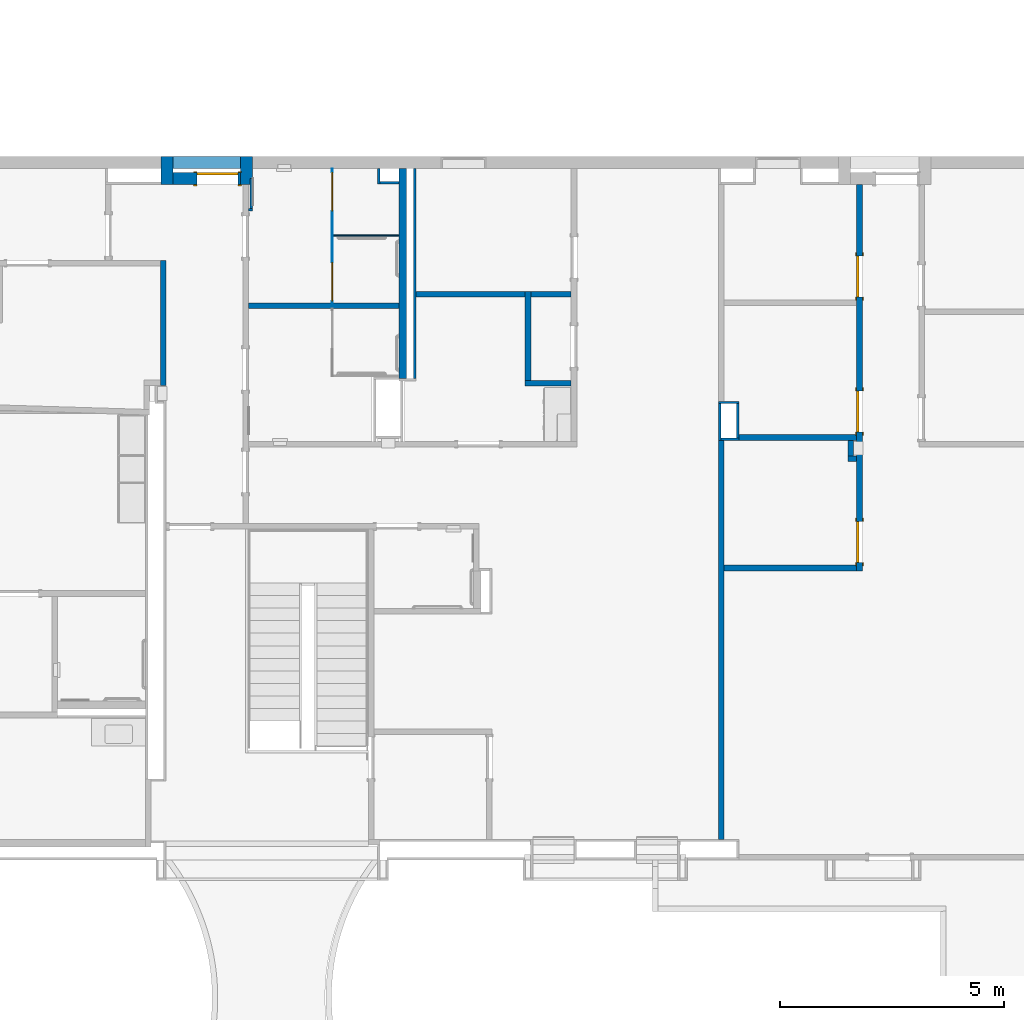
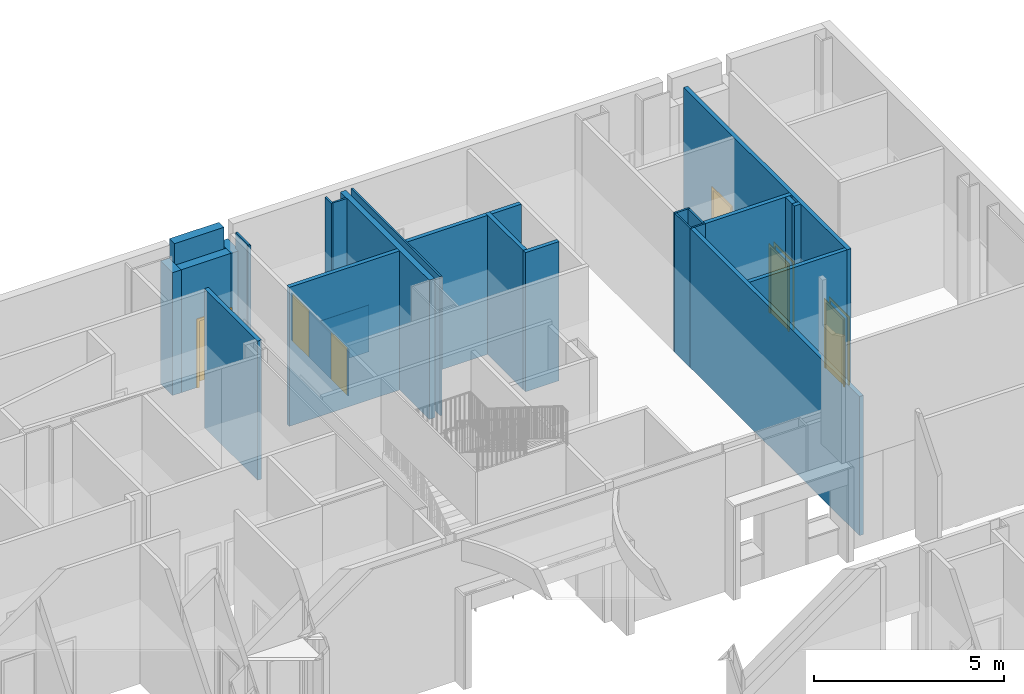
# One storey, part 40 of 87: 28 walls, 6 doors, 6 openings.
"""IFC2X3 building model written with IfcOpenShell, lengths in metres."""

from ifc_helpers import new_model, entity, si_unit, converted_unit, frame, frame_2d, origin, origin_2d_with_axis, place, context, project, spatial, polyline, rectangle, outline, extrude, source, transform, mapped, material, layer, layer_set, layer_usage, type_object, type_shapes, element, fill, save


model = new_model("IFC2X3")

# Units and contexts
model_context = context("Model", 3, precision=1e-09, world=origin())
plan_context = context("Plan", 3, precision=1e-09, world=origin())
ifc_project = project(units=[si_unit("LENGTHUNIT", "METRE"), si_unit("AREAUNIT", "SQUARE_METRE"), si_unit("VOLUMEUNIT", "CUBIC_METRE"), converted_unit("PLANEANGLEUNIT", "DEGREE", entity("IfcRatioMeasure", 0.01745329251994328), si_unit("PLANEANGLEUNIT", "RADIAN"), dimensions=[0, 0, 0, 0, 0, 0, 0]), si_unit("TIMEUNIT", "SECOND")], contexts=[model_context, plan_context])

# Site, building, storey
site_placement = place(None, origin())
site = spatial("IfcSite", under=ifc_project, at=site_placement, Name="Default", CompositionType="ELEMENT")
building_placement = place(site_placement, origin())
building = spatial("IfcBuilding", under=site, at=building_placement, CompositionType="ELEMENT")
storey_placement = place(building_placement, origin())
storey = spatial("IfcBuildingStorey", under=building, at=storey_placement, Name="First Floor", CompositionType="ELEMENT", Elevation=-3.531500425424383e-13)

# Wall
ifc_material_1 = material(Name="Insulation - Insulated Panel")
ifc_layer_1 = layer(ifc_material_1, 0.042)
ifc_material_2 = material(Name="Metal - Firring")
ifc_layer_2 = layer(ifc_material_2, 0.038)
ifc_material_3 = material(Name="Wood - Sheathing - plywood")
ifc_layer_3 = layer(ifc_material_3, 0.019)
ifc_material_4 = material(Name="Metal - Stud Layer")
ifc_layer_4 = layer(ifc_material_4, 0.152)
ifc_material_5 = material(Name="Plasterboard")
ifc_layer_5 = layer(ifc_material_5, 0.016)
ifc_layer_set_1 = layer_set([ifc_layer_1, ifc_layer_2, ifc_layer_3, ifc_layer_4, ifc_layer_5], Name="Basic Wall:Exterior - Insul Panel on Mtl. Stud")
ifc_layer_usage_1 = layer_usage(ifc_layer_set_1, "AXIS2", "NEGATIVE", 0.1335)
wall_1_placement = place(storey_placement, frame((-19.81550000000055, 50.46999999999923, 0.0), z_axis=(0.0, 0.0, 1.0), x_axis=(0.0, -1.0, 0.0)))
element("IfcWallStandardCase", 1, at=wall_1_placement, inside=storey, material=ifc_layer_usage_1, Name="Basic Wall:Exterior - Insul Panel on Mtl. Stud", ObjectType="Basic Wall:Exterior - Insul Panel on Mtl. Stud", context=model_context, shape_type="SweptSolid", body=[
    extrude(rectangle(XDim=0.6269999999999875, YDim=0.267, at=frame_2d((0.3134999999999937, 0.0), x_axis=(-1.0, 0.0))), origin(), (0.0, 0.0, 1.0), 3.949500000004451),
])

# Wall, opening, door
ifc_layer_usage_2 = layer_usage(ifc_layer_set_1, "AXIS2", "NEGATIVE", 0.1335)
wall_2_placement = place(storey_placement, frame((-19.68200000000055, 49.97649999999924, 0.0)))
wall_2 = element("IfcWallStandardCase", 2, at=wall_2_placement, inside=storey, material=ifc_layer_usage_2, Name="Basic Wall:Exterior - Insul Panel on Mtl. Stud", ObjectType="Basic Wall:Exterior - Insul Panel on Mtl. Stud", context=model_context, shape_type="SweptSolid", body=[
    extrude(rectangle(XDim=1.511999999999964, YDim=0.2670000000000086, at=frame_2d((0.7559999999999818, 0.0), x_axis=(-1.0, 0.0))), origin(), (0.0, 0.0, 1.0), 3.949500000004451),
])
opening_1_placement = place(wall_2_placement, frame((0.5369999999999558, -0.133500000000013, 0.0)))
opening_1 = element("IfcOpeningElement", 3, at=opening_1_placement, cuts=wall_2, Name="M_Single-Flush:0915 x 2134mm Exterior:0915 x 2134mm Exterior:1", ObjectType="Opening", context=model_context, shape_type="SweptSolid", body=[
    extrude(rectangle(XDim=0.9149999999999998, YDim=2.134, at=frame_2d((1.067, 0.4575), x_axis=(0.0, 1.0))), frame((0.0, 0.0, 0.0), z_axis=(0.0, 1.0, 0.0), x_axis=(0.0, 0.0, 1.0)), (0.0, 0.0, 1.0), 0.267),
])
door_style_1 = type_object("IfcDoorStyle", Name="0915 x 2134mm Exterior", ConstructionType="NOTDEFINED", OperationType="SINGLE_SWING_RIGHT", ParameterTakesPrecedence=False, Sizeable=False)
shared_shape_1 = source(origin(), model_context, "Body", "SweptSolid", [
    extrude(outline(polyline([(-0.5335, -1.123999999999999), (0.5334999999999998, -1.123999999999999), (0.5334999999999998, 1.086), (0.4574999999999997, 1.086), (0.4574999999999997, -1.048000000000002), (-0.4574999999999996, -1.048000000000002), (-0.4574999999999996, 1.086), (-0.5335, 1.086), (-0.5335, -1.123999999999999)])), frame((0.4575000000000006, 0.2669999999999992, 1.086), z_axis=(0.0, 1.0, 0.0), x_axis=(1.0, 0.0, 0.0)), (0.0, 0.0, 1.0), 0.02499999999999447),
    extrude(outline(polyline([(-1.123999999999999, -0.5334999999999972), (1.085999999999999, -0.5334999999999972), (1.085999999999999, -0.4575000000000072), (-1.048, -0.4575000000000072), (-1.048, 0.4575000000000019), (1.085999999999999, 0.4575000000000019), (1.085999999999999, 0.5335000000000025), (-1.123999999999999, 0.5335000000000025), (-1.123999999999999, -0.5334999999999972)])), frame((0.4575000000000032, -0.02500000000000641, 1.085999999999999), z_axis=(0.0, 1.0, 0.0), x_axis=(0.0, 0.0, -1.0)), (0.0, 0.0, 1.0), 0.0250000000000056),
    extrude(rectangle(XDim=0.051, YDim=0.9149999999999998, at=origin_2d_with_axis()), frame((0.4575000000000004, 0.2414999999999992, 0.0), z_axis=(0.0, 0.0, 1.0), x_axis=(0.0, 1.0, 0.0)), (0.0, 0.0, 1.0), 2.133999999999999),
])
type_shapes(door_style_1, [shared_shape_1])
door_1_placement = place(opening_1_placement, origin())
door_1 = element("IfcDoor", 4, at=door_1_placement, inside=storey, type_object=door_style_1, Name="M_Single-Flush:0915 x 2134mm Exterior:0915 x 2134mm Exterior", ObjectType="0915 x 2134mm Exterior", OverallHeight=2.134, OverallWidth=0.9149999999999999, context=model_context, shape_type="MappedRepresentation", body=[
    mapped(shared_shape_1, transform((0.0, 0.0, 0.0), scale=1.0)),
])
fill(opening_1, door_1)

# Walls
ifc_layer_usage_3 = layer_usage(ifc_layer_set_1, "AXIS2", "NEGATIVE", 0.1335)
wall_3_placement = place(storey_placement, frame((-18.03650000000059, 49.84299999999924, 0.0), z_axis=(0.0, 0.0, 1.0), x_axis=(0.0, 1.0, 0.0)))
element("IfcWallStandardCase", 5, at=wall_3_placement, inside=storey, material=ifc_layer_usage_3, Name="Basic Wall:Exterior - Insul Panel on Mtl. Stud", ObjectType="Basic Wall:Exterior - Insul Panel on Mtl. Stud", context=model_context, shape_type="SweptSolid", body=[
    extrude(rectangle(XDim=0.6270000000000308, YDim=0.267, at=frame_2d((0.3135000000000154, 0.0), x_axis=(-1.0, 0.0))), origin(), (0.0, 0.0, 1.0), 3.949500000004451),
])
ifc_layer_6 = layer(ifc_material_5, 0.016)
ifc_layer_7 = layer(ifc_material_4, 0.092)
ifc_layer_8 = layer(ifc_material_5, 0.016)
ifc_layer_set_2 = layer_set([ifc_layer_6, ifc_layer_7, ifc_layer_8], Name="Basic Wall:Interior - Partition (92mm Stud)")
ifc_layer_usage_4 = layer_usage(ifc_layer_set_2, "AXIS2", "NEGATIVE", 0.062)
wall_4_placement = place(storey_placement, frame((-19.8920000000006, 48.14999999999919, 0.0), z_axis=(0.0, 0.0, 1.0), x_axis=(0.0, -1.0, 0.0)))
element("IfcWallStandardCase", 6, at=wall_4_placement, inside=storey, material=ifc_layer_usage_4, Name="Basic Wall:Interior - Partition (92mm Stud)", ObjectType="Basic Wall:Interior - Partition (92mm Stud)", context=model_context, shape_type="SweptSolid", body=[
    extrude(rectangle(XDim=2.78999999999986, YDim=0.1239999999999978, at=frame_2d((1.39499999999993, 0.0), x_axis=(-1.0, 0.0))), origin(), (0.0, 0.0, 1.0), 4.46800000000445),
])
ifc_layer_9 = layer(ifc_material_4, 0.038)
ifc_layer_10 = layer(ifc_material_5, 0.016)
ifc_layer_set_3 = layer_set([ifc_layer_9, ifc_layer_10], Name="Basic Wall:Interior - Furring (38 mm Stud)")
ifc_layer_usage_5 = layer_usage(ifc_layer_set_3, "AXIS2", "POSITIVE", -0.027)
wall_5_placement = place(storey_placement, frame((-14.28700000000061, 50.20299999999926, 0.0), z_axis=(0.0, 0.0, 1.0), x_axis=(0.0, -1.0, 0.0)))
element("IfcWallStandardCase", 7, at=wall_5_placement, inside=storey, material=ifc_layer_usage_5, Name="Basic Wall:Interior - Furring (38 mm Stud)", ObjectType="Basic Wall:Interior - Furring (38 mm Stud)", context=model_context, shape_type="SweptSolid", body=[
    extrude(rectangle(XDim=4.683999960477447, YDim=0.05400000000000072, at=frame_2d((2.341999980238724, 0.0), x_axis=(-1.0, 0.0))), origin(), (0.0, 0.0, 1.0), 4.468000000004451),
])
ifc_layer_11 = layer(ifc_material_4, 0.152)
ifc_layer_12 = layer(ifc_material_5, 0.016)
ifc_layer_set_4 = layer_set([ifc_layer_11, ifc_layer_12], Name="Basic Wall:Interior - Furring (152 mm Stud)")
ifc_layer_usage_6 = layer_usage(ifc_layer_set_4, "AXIS2", "POSITIVE", -0.08399999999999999)
wall_6_placement = place(storey_placement, frame((-14.55600000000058, 45.51900003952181, 0.0), z_axis=(0.0, 0.0, 1.0), x_axis=(0.0, 1.0, 0.0)))
element("IfcWallStandardCase", 8, at=wall_6_placement, inside=storey, material=ifc_layer_usage_6, Name="Basic Wall:Interior - Furring (152 mm Stud)", ObjectType="Basic Wall:Interior - Furring (152 mm Stud)", context=model_context, shape_type="SweptSolid", body=[
    extrude(rectangle(XDim=4.683999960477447, YDim=0.1680000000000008, at=frame_2d((2.341999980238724, 0.0), x_axis=(-1.0, 0.0))), origin(), (0.0, 0.0, 1.0), 4.468000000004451),
])
ifc_layer_usage_7 = layer_usage(ifc_layer_set_2, "AXIS2", "NEGATIVE", 0.062)
wall_7_placement = place(storey_placement, frame((-14.64000000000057, 47.14199999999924, 0.0), z_axis=(0.0, 0.0, 1.0), x_axis=(-1.0, 0.0, 0.0)))
element("IfcWallStandardCase", 9, at=wall_7_placement, inside=storey, material=ifc_layer_usage_7, Name="Basic Wall:Interior - Partition (92mm Stud)", ObjectType="Basic Wall:Interior - Partition (92mm Stud)", context=model_context, shape_type="SweptSolid", body=[
    extrude(rectangle(XDim=3.356000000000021, YDim=0.1240000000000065, at=frame_2d((1.678000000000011, 0.0), x_axis=(-1.0, 0.0))), origin(), (0.0, 0.0, 1.0), 4.46800000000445),
])
ifc_layer_usage_8 = layer_usage(ifc_layer_set_2, "AXIS2", "NEGATIVE", 0.062)
wall_8_placement = place(storey_placement, frame((-10.79400000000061, 45.41199999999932, 0.0), z_axis=(0.0, 0.0, 1.0), x_axis=(-1.0, 0.0, 0.0)))
element("IfcWallStandardCase", 10, at=wall_8_placement, inside=storey, material=ifc_layer_usage_8, Name="Basic Wall:Interior - Partition (92mm Stud)", ObjectType="Basic Wall:Interior - Partition (92mm Stud)", context=model_context, shape_type="SweptSolid", body=[
    extrude(rectangle(XDim=1.025999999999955, YDim=0.1240000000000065, at=frame_2d((0.5129999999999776, 0.0), x_axis=(-1.0, 0.0))), origin(), (0.0, 0.0, 1.0), 4.468000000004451),
])
ifc_layer_usage_9 = layer_usage(ifc_layer_set_2, "AXIS2", "NEGATIVE", 0.062)
wall_9_placement = place(storey_placement, frame((-11.75800000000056, 45.47399999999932, 0.0), z_axis=(0.0, 0.0, 1.0), x_axis=(0.0, 1.0, 0.0)))
element("IfcWallStandardCase", 11, at=wall_9_placement, inside=storey, material=ifc_layer_usage_9, Name="Basic Wall:Interior - Partition (92mm Stud)", ObjectType="Basic Wall:Interior - Partition (92mm Stud)", context=model_context, shape_type="SweptSolid", body=[
    extrude(rectangle(XDim=1.984999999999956, YDim=0.1240000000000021, at=frame_2d((0.992499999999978, 0.0), x_axis=(-1.0, 0.0))), origin(), (0.0, 0.0, 1.0), 4.46800000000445),
])
ifc_layer_usage_10 = layer_usage(ifc_layer_set_2, "AXIS2", "NEGATIVE", 0.062)
wall_10_placement = place(storey_placement, frame((-11.82000000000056, 47.39699999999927, 0.0), z_axis=(0.0, 0.0, 1.0), x_axis=(-1.0, 0.0, 0.0)))
element("IfcWallStandardCase", 12, at=wall_10_placement, inside=storey, material=ifc_layer_usage_10, Name="Basic Wall:Interior - Partition (92mm Stud)", ObjectType="Basic Wall:Interior - Partition (92mm Stud)", context=model_context, shape_type="SweptSolid", body=[
    extrude(rectangle(XDim=2.440000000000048, YDim=0.1240000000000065, at=frame_2d((1.220000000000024, 0.0), x_axis=(-1.0, 0.0))), origin(), (0.0, 0.0, 1.0), 4.46800000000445),
])
ifc_layer_usage_11 = layer_usage(ifc_layer_set_2, "AXIS2", "NEGATIVE", 0.062)
wall_11_placement = place(storey_placement, frame((-11.69600000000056, 47.39699999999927, 0.0)))
element("IfcWallStandardCase", 13, at=wall_11_placement, inside=storey, material=ifc_layer_usage_11, Name="Basic Wall:Interior - Partition (92mm Stud)", ObjectType="Basic Wall:Interior - Partition (92mm Stud)", context=model_context, shape_type="SweptSolid", body=[
    extrude(rectangle(XDim=0.9019999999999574, YDim=0.1240000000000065, at=frame_2d((0.4509999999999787, 0.0), x_axis=(-1.0, 0.0))), origin(), (0.0, 0.0, 1.0), 4.46800000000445),
])
ifc_layer_usage_12 = layer_usage(ifc_layer_set_2, "AXIS2", "NEGATIVE", 0.062)
wall_12_placement = place(storey_placement, frame((-7.448000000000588, 35.23999999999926, 0.0), z_axis=(0.0, 0.0, 1.0), x_axis=(0.0, 1.0, 0.0)))
element("IfcWallStandardCase", 14, at=wall_12_placement, inside=storey, material=ifc_layer_usage_12, Name="Basic Wall:Interior - Partition (92mm Stud)", ObjectType="Basic Wall:Interior - Partition (92mm Stud)", context=model_context, shape_type="SweptSolid", body=[
    extrude(rectangle(XDim=8.900000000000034, YDim=0.124, at=frame_2d((4.450000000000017, 0.0), x_axis=(-1.0, 0.0))), origin(), (0.0, 0.0, 1.0), 4.46800000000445),
])

# Wall, openings, doors
ifc_layer_usage_13 = layer_usage(ifc_layer_set_2, "AXIS2", "NEGATIVE", 0.062)
wall_13_placement = place(storey_placement, frame((-4.362000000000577, 49.84299999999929, 0.0), z_axis=(0.0, 0.0, 1.0), x_axis=(0.0, -1.0, 0.0)))
wall_13 = element("IfcWallStandardCase", 15, at=wall_13_placement, inside=storey, material=ifc_layer_usage_13, Name="Basic Wall:Interior - Partition (92mm Stud)", ObjectType="Basic Wall:Interior - Partition (92mm Stud)", context=model_context, shape_type="SweptSolid", body=[
    extrude(rectangle(XDim=8.613000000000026, YDim=0.124, at=frame_2d((4.306500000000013, 0.0), x_axis=(-1.0, 0.0))), origin(), (0.0, 0.0, 1.0), 4.46800000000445),
])
opening_2_placement = place(wall_13_placement, frame((2.50900000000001, 0.06199999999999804, 0.0)))
opening_2 = element("IfcOpeningElement", 16, at=opening_2_placement, cuts=wall_13, Name="M_Single-Flush:0915 x 2134mm:0915 x 2134mm:1", ObjectType="Opening", context=model_context, shape_type="SweptSolid", body=[
    extrude(rectangle(XDim=0.9149999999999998, YDim=2.134, at=frame_2d((1.067, 0.4574999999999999), x_axis=(0.0, -1.0))), frame((0.0, 0.0, 0.0), z_axis=(0.0, -1.0, 0.0), x_axis=(0.0, 0.0, 1.0)), (0.0, 0.0, 1.0), 0.124),
])
opening_3_placement = place(wall_13_placement, frame((5.519000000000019, 0.06199999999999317, 0.0)))
opening_3 = element("IfcOpeningElement", 17, at=opening_3_placement, cuts=wall_13, Name="M_Single-Flush:0915 x 2134mm:0915 x 2134mm:1", ObjectType="Opening", context=model_context, shape_type="SweptSolid", body=[
    extrude(rectangle(XDim=0.9149999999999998, YDim=2.134, at=frame_2d((1.067, 0.4574999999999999), x_axis=(0.0, -1.0))), frame((0.0, 0.0, 0.0), z_axis=(0.0, -1.0, 0.0), x_axis=(0.0, 0.0, 1.0)), (0.0, 0.0, 1.0), 0.124),
])
opening_4_placement = place(wall_13_placement, frame((8.429000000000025, 0.06199999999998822, 0.0)))
opening_4 = element("IfcOpeningElement", 18, at=opening_4_placement, cuts=wall_13, Name="M_Single-Flush:0915 x 2134mm:0915 x 2134mm:1", ObjectType="Opening", context=model_context, shape_type="SweptSolid", body=[
    extrude(rectangle(XDim=0.9149999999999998, YDim=2.134, at=frame_2d((1.067, 0.4574999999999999), x_axis=(0.0, -1.0))), frame((0.0, 0.0, 0.0), z_axis=(0.0, -1.0, 0.0), x_axis=(0.0, 0.0, 1.0)), (0.0, 0.0, 1.0), 0.124),
])
door_style_2 = type_object("IfcDoorStyle", Name="0915 x 2134mm", ConstructionType="NOTDEFINED", OperationType="SINGLE_SWING_LEFT", ParameterTakesPrecedence=False, Sizeable=False)
shared_shape_2 = source(origin(), model_context, "Body", "SweptSolid", [
    extrude(outline(polyline([(-0.5335, -1.123999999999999), (0.5334999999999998, -1.123999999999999), (0.5334999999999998, 1.086), (0.4574999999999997, 1.086), (0.4574999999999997, -1.048000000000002), (-0.4574999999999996, -1.048000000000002), (-0.4574999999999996, 1.086), (-0.5335, 1.086), (-0.5335, -1.123999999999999)])), frame((0.4575000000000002, 0.1489999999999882, 1.086), z_axis=(0.0, -1.0, 0.0), x_axis=(-1.0, 0.0, 0.0)), (0.0, 0.0, 1.0), 0.02499999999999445),
    extrude(outline(polyline([(-1.123999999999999, -0.5334999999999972), (1.085999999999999, -0.5334999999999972), (1.085999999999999, -0.4575000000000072), (-1.048, -0.4575000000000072), (-1.048, 0.4575000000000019), (1.085999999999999, 0.4575000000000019), (1.085999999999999, 0.5335000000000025), (-1.123999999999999, 0.5335000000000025), (-1.123999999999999, -0.5334999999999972)])), frame((0.4574999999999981, 0.0, 1.085999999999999), z_axis=(0.0, -1.0, 0.0), x_axis=(0.0, 0.0, -1.0)), (0.0, 0.0, 1.0), 0.02500000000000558),
    extrude(rectangle(XDim=0.9149999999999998, YDim=0.051, at=origin_2d_with_axis()), frame((0.4575000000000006, 0.09849999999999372, 0.0)), (0.0, 0.0, 1.0), 2.133999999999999),
])
type_shapes(door_style_2, [shared_shape_2])
door_2_placement = place(opening_2_placement, frame((0.0, 0.0, 0.0), z_axis=(0.0, 0.0, 1.0), x_axis=(-1.0, 0.0, 0.0)))
door_2 = element("IfcDoor", 19, at=door_2_placement, inside=storey, type_object=door_style_2, Name="M_Single-Flush:0915 x 2134mm:0915 x 2134mm", ObjectType="0915 x 2134mm", OverallHeight=2.134, OverallWidth=0.9149999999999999, context=model_context, shape_type="MappedRepresentation", body=[
    mapped(shared_shape_2, transform((0.0, 0.0, 0.0), scale=1.0)),
])
fill(opening_2, door_2)
door_3_placement = place(opening_3_placement, frame((0.0, 0.0, 0.0), z_axis=(0.0, 0.0, 1.0), x_axis=(-1.0, 0.0, 0.0)))
door_3 = element("IfcDoor", 20, at=door_3_placement, inside=storey, type_object=door_style_2, Name="M_Single-Flush:0915 x 2134mm:0915 x 2134mm", ObjectType="0915 x 2134mm", OverallHeight=2.134, OverallWidth=0.9149999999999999, context=model_context, shape_type="MappedRepresentation", body=[
    mapped(shared_shape_2, transform((0.0, 0.0, 0.0), scale=1.0)),
])
fill(opening_3, door_3)
door_4_placement = place(opening_4_placement, frame((0.0, 0.0, 0.0), z_axis=(0.0, 0.0, 1.0), x_axis=(-1.0, 0.0, 0.0)))
door_4 = element("IfcDoor", 21, at=door_4_placement, inside=storey, type_object=door_style_2, Name="M_Single-Flush:0915 x 2134mm:0915 x 2134mm", ObjectType="0915 x 2134mm", OverallHeight=2.134, OverallWidth=0.9149999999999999, context=model_context, shape_type="MappedRepresentation", body=[
    mapped(shared_shape_2, transform((0.0, 0.0, 0.0), scale=1.0)),
])
fill(opening_4, door_4)

# Walls
ifc_layer_usage_14 = layer_usage(ifc_layer_set_2, "AXIS2", "NEGATIVE", 0.062)
wall_14_placement = place(storey_placement, frame((-4.424000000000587, 44.20199999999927, 0.0), z_axis=(0.0, 0.0, 1.0), x_axis=(-1.0, 0.0, 0.0)))
element("IfcWallStandardCase", 22, at=wall_14_placement, inside=storey, material=ifc_layer_usage_14, Name="Basic Wall:Interior - Partition (92mm Stud)", ObjectType="Basic Wall:Interior - Partition (92mm Stud)", context=model_context, shape_type="SweptSolid", body=[
    extrude(rectangle(XDim=2.626000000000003, YDim=0.1240000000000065, at=frame_2d((1.313000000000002, 0.0), x_axis=(-1.0, 0.0))), origin(), (0.0, 0.0, 1.0), 4.46800000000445),
])
ifc_layer_usage_15 = layer_usage(ifc_layer_set_2, "AXIS2", "NEGATIVE", 0.062)
wall_15_placement = place(storey_placement, frame((-4.559500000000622, 44.13999999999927, 0.0), z_axis=(0.0, 0.0, 1.0), x_axis=(0.0, -1.0, 0.0)))
element("IfcWallStandardCase", 23, at=wall_15_placement, inside=storey, material=ifc_layer_usage_15, Name="Basic Wall:Interior - Partition (92mm Stud)", ObjectType="Basic Wall:Interior - Partition (92mm Stud)", context=model_context, shape_type="SweptSolid", body=[
    extrude(rectangle(XDim=0.3500000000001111, YDim=0.124, at=frame_2d((0.1750000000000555, 0.0), x_axis=(-1.0, 0.0))), origin(), (0.0, 0.0, 1.0), 4.46800000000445),
])
ifc_layer_usage_16 = layer_usage(ifc_layer_set_2, "AXIS2", "NEGATIVE", 0.062)
wall_16_placement = place(storey_placement, frame((-4.621500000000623, 43.72799999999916, 0.0)))
element("IfcWallStandardCase", 24, at=wall_16_placement, inside=storey, material=ifc_layer_usage_16, Name="Basic Wall:Interior - Partition (92mm Stud)", ObjectType="Basic Wall:Interior - Partition (92mm Stud)", context=model_context, shape_type="SweptSolid", body=[
    extrude(rectangle(XDim=0.1975000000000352, YDim=0.1240000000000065, at=frame_2d((0.09875000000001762, 0.0), x_axis=(-1.0, 0.0))), origin(), (0.0, 0.0, 1.0), 4.46800000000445),
])
ifc_layer_usage_17 = layer_usage(ifc_layer_set_2, "AXIS2", "NEGATIVE", 0.062)
wall_17_placement = place(storey_placement, frame((-4.424000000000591, 41.29199999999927, 0.0), z_axis=(0.0, 0.0, 1.0), x_axis=(-1.0, 0.0, 0.0)))
element("IfcWallStandardCase", 25, at=wall_17_placement, inside=storey, material=ifc_layer_usage_17, Name="Basic Wall:Interior - Partition (92mm Stud)", ObjectType="Basic Wall:Interior - Partition (92mm Stud)", context=model_context, shape_type="SweptSolid", body=[
    extrude(rectangle(XDim=2.961999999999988, YDim=0.1240000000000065, at=frame_2d((1.480999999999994, 0.0), x_axis=(-1.0, 0.0))), origin(), (0.0, 0.0, 1.0), 4.46800000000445),
])
ifc_layer_usage_18 = layer_usage(ifc_layer_set_1, "AXIS2", "NEGATIVE", 0.1335)
wall_18_placement = place(storey_placement, frame((-19.81550000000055, 50.33649999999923, 3.0)))
element("IfcWallStandardCase", 26, at=wall_18_placement, inside=storey, material=ifc_layer_usage_18, Name="Basic Wall:Exterior - Insul Panel on Mtl. Stud", ObjectType="Basic Wall:Exterior - Insul Panel on Mtl. Stud", context=model_context, shape_type="SweptSolid", body=[
    extrude(rectangle(XDim=1.511999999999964, YDim=0.2669999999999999, at=frame_2d((0.889499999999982, 0.0), x_axis=(-1.0, 0.0))), origin(), (0.0, 0.0, 1.0), 1.570000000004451),
])
ifc_layer_usage_19 = layer_usage(ifc_layer_set_3, "AXIS2", "NEGATIVE", 0.027)
wall_19_placement = place(storey_placement, frame((-7.050000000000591, 44.98299999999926, 0.0), z_axis=(0.0, 0.0, 1.0), x_axis=(-1.0, 0.0, 0.0)))
element("IfcWallStandardCase", 27, at=wall_19_placement, inside=storey, material=ifc_layer_usage_19, Name="Basic Wall:Interior - Furring (38 mm Stud)", ObjectType="Basic Wall:Interior - Furring (38 mm Stud)", context=model_context, shape_type="SweptSolid", body=[
    extrude(rectangle(XDim=0.459999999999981, YDim=0.05400000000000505, at=frame_2d((0.2299999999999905, 0.0), x_axis=(-1.0, 0.0))), origin(), (0.0, 0.0, 1.0), 4.46800000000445),
])
ifc_layer_usage_20 = layer_usage(ifc_layer_set_3, "AXIS2", "NEGATIVE", 0.027)
wall_20_placement = place(storey_placement, frame((-7.483000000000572, 44.95599999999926, 0.0), z_axis=(0.0, 0.0, 1.0), x_axis=(0.0, -1.0, 0.0)))
element("IfcWallStandardCase", 28, at=wall_20_placement, inside=storey, material=ifc_layer_usage_20, Name="Basic Wall:Interior - Furring (38 mm Stud)", ObjectType="Basic Wall:Interior - Furring (38 mm Stud)", context=model_context, shape_type="SweptSolid", body=[
    extrude(rectangle(XDim=0.8159999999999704, YDim=0.05400000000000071, at=frame_2d((0.4079999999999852, 0.0), x_axis=(-1.0, 0.0))), origin(), (0.0, 0.0, 1.0), 4.46800000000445),
])
ifc_layer_usage_21 = layer_usage(ifc_layer_set_3, "AXIS2", "NEGATIVE", 0.027)
wall_21_placement = place(storey_placement, frame((-7.456000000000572, 44.16699999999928, 0.0)))
element("IfcWallStandardCase", 29, at=wall_21_placement, inside=storey, material=ifc_layer_usage_21, Name="Basic Wall:Interior - Furring (38 mm Stud)", ObjectType="Basic Wall:Interior - Furring (38 mm Stud)", context=model_context, shape_type="SweptSolid", body=[
    extrude(rectangle(XDim=0.4059999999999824, YDim=0.05400000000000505, at=frame_2d((0.2029999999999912, 0.0), x_axis=(-1.0, 0.0))), origin(), (0.0, 0.0, 1.0), 4.46800000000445),
])
ifc_layer_usage_22 = layer_usage(ifc_layer_set_3, "AXIS2", "NEGATIVE", 0.027)
wall_22_placement = place(storey_placement, frame((-7.07700000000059, 44.19399999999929, 0.0), z_axis=(0.0, 0.0, 1.0), x_axis=(0.0, 1.0, 0.0)))
element("IfcWallStandardCase", 30, at=wall_22_placement, inside=storey, material=ifc_layer_usage_22, Name="Basic Wall:Interior - Furring (38 mm Stud)", ObjectType="Basic Wall:Interior - Furring (38 mm Stud)", context=model_context, shape_type="SweptSolid", body=[
    extrude(rectangle(XDim=0.761999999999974, YDim=0.05400000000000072, at=frame_2d((0.380999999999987, 0.0), x_axis=(-1.0, 0.0))), origin(), (0.0, 0.0, 1.0), 4.468000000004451),
])
ifc_layer_usage_23 = layer_usage(ifc_layer_set_3, "AXIS2", "NEGATIVE", 0.027)
wall_23_placement = place(storey_placement, frame((-15.08297500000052, 50.20299999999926, 0.0), z_axis=(0.0, 0.0, 1.0), x_axis=(0.0, -1.0, 0.0)))
element("IfcWallStandardCase", 31, at=wall_23_placement, inside=storey, material=ifc_layer_usage_23, Name="Basic Wall:Interior - Furring (38 mm Stud)", ObjectType="Basic Wall:Interior - Furring (38 mm Stud)", context=model_context, shape_type="SweptSolid", body=[
    extrude(rectangle(XDim=0.3429999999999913, YDim=0.05400000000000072, at=frame_2d((0.1714999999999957, 0.0), x_axis=(-1.0, 0.0))), origin(), (0.0, 0.0, 1.0), 4.46800000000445),
])
ifc_layer_usage_24 = layer_usage(ifc_layer_set_3, "AXIS2", "NEGATIVE", 0.027)
wall_24_placement = place(storey_placement, frame((-15.05597500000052, 49.88699999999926, 0.0)))
element("IfcWallStandardCase", 32, at=wall_24_placement, inside=storey, material=ifc_layer_usage_24, Name="Basic Wall:Interior - Furring (38 mm Stud)", ObjectType="Basic Wall:Interior - Furring (38 mm Stud)", context=model_context, shape_type="SweptSolid", body=[
    extrude(rectangle(XDim=0.4159749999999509, YDim=0.05400000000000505, at=frame_2d((0.2079874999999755, 0.0), x_axis=(-1.0, 0.0))), origin(), (0.0, 0.0, 1.0), 4.46800000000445),
])
ifc_layer_usage_25 = layer_usage(ifc_layer_set_3, "AXIS2", "NEGATIVE", 0.027)
wall_25_placement = place(storey_placement, frame((-17.99600000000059, 49.28199999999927, 0.0)))
element("IfcWallStandardCase", 33, at=wall_25_placement, inside=storey, material=ifc_layer_usage_25, Name="Basic Wall:Interior - Furring (38 mm Stud)", ObjectType="Basic Wall:Interior - Furring (38 mm Stud)", context=model_context, shape_type="SweptSolid", body=[
    extrude(rectangle(XDim=0.09300000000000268, YDim=0.05400000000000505, at=frame_2d((0.04650000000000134, 0.0), x_axis=(-1.0, 0.0))), origin(), (0.0, 0.0, 1.0), 4.468000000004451),
])
ifc_layer_usage_26 = layer_usage(ifc_layer_set_3, "AXIS2", "NEGATIVE", 0.027)
wall_26_placement = place(storey_placement, frame((-17.93000000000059, 49.30899999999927, 0.0), z_axis=(0.0, 0.0, 1.0), x_axis=(0.0, 1.0, 0.0)))
element("IfcWallStandardCase", 34, at=wall_26_placement, inside=storey, material=ifc_layer_usage_26, Name="Basic Wall:Interior - Furring (38 mm Stud)", ObjectType="Basic Wall:Interior - Furring (38 mm Stud)", context=model_context, shape_type="SweptSolid", body=[
    extrude(rectangle(XDim=0.6674999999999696, YDim=0.05400000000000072, at=frame_2d((0.3337499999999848, 0.0), x_axis=(-1.0, 0.0))), origin(), (0.0, 0.0, 1.0), 4.46800000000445),
])

# Wall, openings, doors
ifc_material_6 = material(Name="Laminate - Ivory, Matte")
ifc_layer_13 = layer(ifc_material_6, 0.025)
ifc_layer_set_5 = layer_set([ifc_layer_13], Name="Basic Wall:Interior - Toilet Partition (25mm)")
ifc_layer_usage_27 = layer_usage(ifc_layer_set_5, "AXIS2", "POSITIVE", -0.0125)
wall_27_placement = place(storey_placement, frame((-16.12749960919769, 50.20299999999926, 0.25), z_axis=(0.0, 0.0, 1.0), x_axis=(0.0, -1.0, 0.0)))
wall_27 = element("IfcWallStandardCase", 35, at=wall_27_placement, inside=storey, material=ifc_layer_usage_27, Name="Basic Wall:Interior - Toilet Partition (25mm)", ObjectType="Basic Wall:Interior - Toilet Partition (25mm)", context=model_context, shape_type="SweptSolid", body=[
    extrude(rectangle(XDim=2.99900000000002, YDim=0.02499999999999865, at=frame_2d((1.49950000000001, 0.0), x_axis=(-1.0, 0.0))), origin(), (0.0, 0.0, 1.0), 1.5),
])
opening_5_placement = place(wall_27_placement, frame((0.08323597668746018, -0.01250000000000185, 0.0)))
opening_5 = element("IfcOpeningElement", 36, at=opening_5_placement, cuts=wall_27, Name="M_Toilet Partition:0865 x 1500mm:0865 x 1500mm:1", ObjectType="Opening", context=model_context, shape_type="SweptSolid", body=[
    extrude(rectangle(XDim=0.8649999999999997, YDim=1.5, at=frame_2d((0.7499999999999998, 0.4325000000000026), x_axis=(0.0, -1.0))), frame((0.0, 0.0, 0.0), z_axis=(0.0, 1.0, 0.0), x_axis=(0.0, 0.0, 1.0)), (0.0, 0.0, 1.0), 0.025),
])
opening_6_placement = place(wall_27_placement, frame((2.959, 0.01249999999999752, 0.0)))
opening_6 = element("IfcOpeningElement", 37, at=opening_6_placement, cuts=wall_27, Name="M_Toilet Partition:0865 x 1500mm:0865 x 1500mm:1", ObjectType="Opening", context=model_context, shape_type="SweptSolid", body=[
    extrude(rectangle(XDim=0.8649999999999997, YDim=1.5, at=frame_2d((0.7499999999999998, 0.4325000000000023), x_axis=(0.0, -1.0))), frame((0.0, 0.0, 0.0), z_axis=(0.0, -1.0, 0.0), x_axis=(0.0, 0.0, 1.0)), (0.0, 0.0, 1.0), 0.025),
])
door_style_3 = type_object("IfcDoorStyle", Name="0865 x 1500mm", ConstructionType="NOTDEFINED", OperationType="SINGLE_SWING_LEFT", ParameterTakesPrecedence=False, Sizeable=False)
shared_shape_3 = source(origin(), model_context, "Body", "SweptSolid", [
    extrude(rectangle(XDim=0.8649999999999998, YDim=0.025, at=origin_2d_with_axis()), frame((0.4325000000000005, 0.01249999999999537, 0.0)), (0.0, 0.0, 1.0), 1.499999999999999),
])
type_shapes(door_style_3, [shared_shape_3])
door_5_placement = place(opening_5_placement, origin())
door_5 = element("IfcDoor", 38, at=door_5_placement, inside=storey, type_object=door_style_3, Name="M_Toilet Partition:0865 x 1500mm:0865 x 1500mm", ObjectType="0865 x 1500mm", OverallHeight=1.5, OverallWidth=0.8650000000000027, context=model_context, shape_type="MappedRepresentation", body=[
    mapped(shared_shape_3, transform((0.0, 0.0, 0.0), scale=1.0)),
])
fill(opening_5, door_5)
door_6_placement = place(opening_6_placement, frame((0.0, 0.0, 0.0), z_axis=(0.0, 0.0, 1.0), x_axis=(-1.0, 0.0, 0.0)))
door_6 = element("IfcDoor", 39, at=door_6_placement, inside=storey, type_object=door_style_3, Name="M_Toilet Partition:0865 x 1500mm:0865 x 1500mm", ObjectType="0865 x 1500mm", OverallHeight=1.5, OverallWidth=0.8650000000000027, context=model_context, shape_type="MappedRepresentation", body=[
    mapped(shared_shape_3, transform((0.0, 0.0, 0.0), scale=1.0)),
])
fill(opening_6, door_6)

# Wall
ifc_layer_usage_28 = layer_usage(ifc_layer_set_5, "AXIS2", "POSITIVE", -0.0125)
wall_28_placement = place(storey_placement, frame((-14.64000000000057, 48.707500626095, 0.25), z_axis=(0.0, 0.0, 1.0), x_axis=(-1.0, 0.0, 0.0)))
element("IfcWallStandardCase", 40, at=wall_28_placement, inside=storey, material=ifc_layer_usage_28, Name="Basic Wall:Interior - Toilet Partition (25mm)", ObjectType="Basic Wall:Interior - Toilet Partition (25mm)", context=model_context, shape_type="SweptSolid", body=[
    extrude(rectangle(XDim=1.474999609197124, YDim=0.02499999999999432, at=frame_2d((0.7374998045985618, 0.0), x_axis=(-1.0, 0.0))), origin(), (0.0, 0.0, 1.0), 1.5),
])

save(model, "model.ifc")
